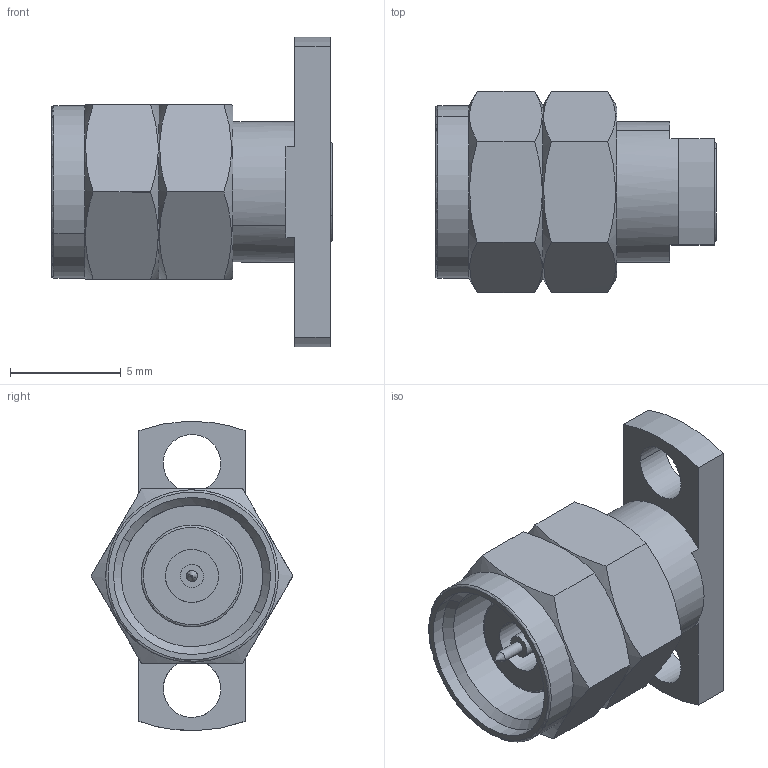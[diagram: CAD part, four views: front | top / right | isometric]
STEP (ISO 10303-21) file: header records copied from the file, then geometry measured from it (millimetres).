
FILE_DESCRIPTION(('CATIA V5 STEP Exchange'),'2;1');
FILE_NAME('F:\Work SZ\CMP 图纸\Precision Coaxial Connector\2.4mm\97-03-9E5-011\97-03-9E5-011(REV.A).stp','2013-08-08T09:51:26+00:00',('none'),('none'),'CATIA Version 5 Release 17 (IN-10)','CATIA V5 STEP AP203','none');
FILE_SCHEMA(('CONFIG_CONTROL_DESIGN'));
Length unit declared in the file: millimetre
Products named in the file (1): 97-03-9E5-011
Bounding box: 12.7 x 9.12 x 14 mm (x, y, z)
Surface area: 728.5 mm2 (no closed solid volume)
Topology: 0 solids, 1 shells, 91 faces, 230 edges, 146 vertices
Faces by surface type: plane 35, cylinder 28, cone 24, torus 4
Entity records: 3293 total; most frequent: CARTESIAN_POINT 1328, ORIENTED_EDGE 450, DIRECTION 286, EDGE_CURVE 225, VERTEX_POINT 145, AXIS2_PLACEMENT_3D 125, EDGE_LOOP 104, ADVANCED_FACE 91
